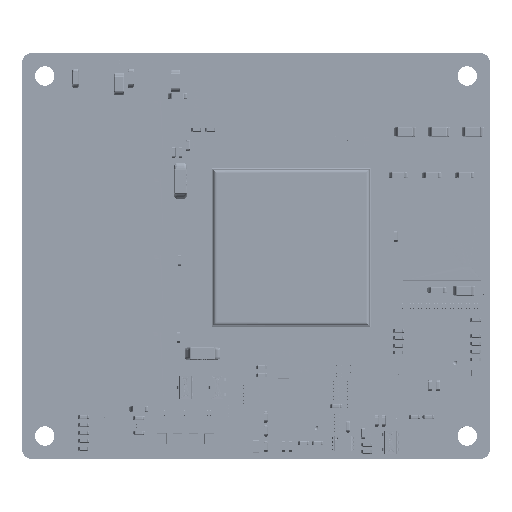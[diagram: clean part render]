
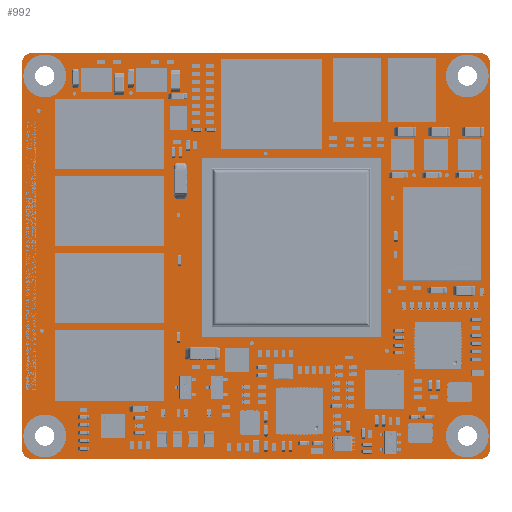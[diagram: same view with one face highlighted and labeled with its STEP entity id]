
A CAD part, top view. The second image highlights one B-rep face of the part: STEP entity #992.
In plain terms, the highlighted planar face has unit normal (0, 0, 1).
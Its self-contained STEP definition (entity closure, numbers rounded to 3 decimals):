
#89=CARTESIAN_POINT('',(58.8,50.8,0.));
#90=DIRECTION('',(0.,0.,-1.));
#91=DIRECTION('',(0.,1.,0.));
#92=AXIS2_PLACEMENT_3D('',#89,#90,#91);
#97=CARTESIAN_POINT('',(58.8,1.2,0.));
#98=DIRECTION('',(0.,0.,-1.));
#99=DIRECTION('',(1.,0.,0.));
#100=AXIS2_PLACEMENT_3D('',#97,#98,#99);
#105=CARTESIAN_POINT('',(1.2,1.2,0.));
#106=DIRECTION('',(0.,0.,-1.));
#107=DIRECTION('',(0.,-1.,0.));
#108=AXIS2_PLACEMENT_3D('',#105,#106,#107);
#113=CARTESIAN_POINT('',(1.2,50.8,0.));
#114=DIRECTION('',(0.,0.,-1.));
#115=DIRECTION('',(-1.,0.,0.));
#116=AXIS2_PLACEMENT_3D('',#113,#114,#115);
#121=CARTESIAN_POINT('',(2.921,49.079,0.));
#122=DIRECTION('',(0.,0.,1.));
#123=DIRECTION('',(1.,0.,0.));
#124=AXIS2_PLACEMENT_3D('',#121,#122,#123);
#129=CARTESIAN_POINT('',(2.921,49.079,0.));
#130=DIRECTION('',(0.,0.,1.));
#131=DIRECTION('',(-1.,0.,0.));
#132=AXIS2_PLACEMENT_3D('',#129,#130,#131);
#137=CARTESIAN_POINT('',(57.079,49.079,0.));
#138=DIRECTION('',(0.,0.,1.));
#139=DIRECTION('',(1.,0.,0.));
#140=AXIS2_PLACEMENT_3D('',#137,#138,#139);
#145=CARTESIAN_POINT('',(57.079,49.079,0.));
#146=DIRECTION('',(0.,0.,1.));
#147=DIRECTION('',(-1.,0.,0.));
#148=AXIS2_PLACEMENT_3D('',#145,#146,#147);
#153=CARTESIAN_POINT('',(2.921,2.921,0.));
#154=DIRECTION('',(0.,0.,1.));
#155=DIRECTION('',(1.,0.,0.));
#156=AXIS2_PLACEMENT_3D('',#153,#154,#155);
#161=CARTESIAN_POINT('',(2.921,2.921,0.));
#162=DIRECTION('',(0.,0.,1.));
#163=DIRECTION('',(-1.,0.,0.));
#164=AXIS2_PLACEMENT_3D('',#161,#162,#163);
#169=CARTESIAN_POINT('',(57.079,2.921,0.));
#170=DIRECTION('',(0.,0.,1.));
#171=DIRECTION('',(1.,0.,0.));
#172=AXIS2_PLACEMENT_3D('',#169,#170,#171);
#177=CARTESIAN_POINT('',(57.079,2.921,0.));
#178=DIRECTION('',(0.,0.,1.));
#179=DIRECTION('',(-1.,0.,0.));
#180=AXIS2_PLACEMENT_3D('',#177,#178,#179);
#185=DIRECTION('',(1.,0.,0.));
#186=VECTOR('',#185,57.6);
#187=CARTESIAN_POINT('',(1.2,52.,0.));
#188=LINE('',#187,#186);
#213=DIRECTION('',(0.,1.,0.));
#214=VECTOR('',#213,49.6);
#215=CARTESIAN_POINT('',(0.,1.2,0.));
#216=LINE('',#215,#214);
#241=DIRECTION('',(-1.,0.,0.));
#242=VECTOR('',#241,57.6);
#243=CARTESIAN_POINT('',(58.8,0.,0.));
#244=LINE('',#243,#242);
#269=DIRECTION('',(0.,-1.,0.));
#270=VECTOR('',#269,49.6);
#271=CARTESIAN_POINT('',(60.,50.8,0.));
#272=LINE('',#271,#270);
#817=CARTESIAN_POINT('',(1.2,52.,0.));
#818=CARTESIAN_POINT('',(58.8,52.,0.));
#819=VERTEX_POINT('',#817);
#820=VERTEX_POINT('',#818);
#821=CARTESIAN_POINT('',(60.,50.8,0.));
#822=VERTEX_POINT('',#821);
#823=CARTESIAN_POINT('',(60.,1.2,0.));
#824=VERTEX_POINT('',#823);
#825=CARTESIAN_POINT('',(58.8,0.,0.));
#826=VERTEX_POINT('',#825);
#827=CARTESIAN_POINT('',(1.2,0.,0.));
#828=VERTEX_POINT('',#827);
#829=CARTESIAN_POINT('',(0.,1.2,0.));
#830=VERTEX_POINT('',#829);
#831=CARTESIAN_POINT('',(0.,50.8,0.));
#832=VERTEX_POINT('',#831);
#865=CARTESIAN_POINT('',(5.671,49.079,0.));
#866=CARTESIAN_POINT('',(0.171,49.079,0.));
#867=VERTEX_POINT('',#865);
#868=VERTEX_POINT('',#866);
#869=CARTESIAN_POINT('',(59.829,49.079,0.));
#870=CARTESIAN_POINT('',(54.329,49.079,0.));
#871=VERTEX_POINT('',#869);
#872=VERTEX_POINT('',#870);
#873=CARTESIAN_POINT('',(5.671,2.921,0.));
#874=CARTESIAN_POINT('',(0.171,2.921,0.));
#875=VERTEX_POINT('',#873);
#876=VERTEX_POINT('',#874);
#877=CARTESIAN_POINT('',(59.829,2.921,0.));
#878=CARTESIAN_POINT('',(54.329,2.921,0.));
#879=VERTEX_POINT('',#877);
#880=VERTEX_POINT('',#878);
#945=CARTESIAN_POINT('',(128.999,160.007,0.));
#946=DIRECTION('',(0.,0.,1.));
#947=DIRECTION('',(1.,0.,0.));
#948=AXIS2_PLACEMENT_3D('',#945,#946,#947);
#949=PLANE('',#948);
#951=ORIENTED_EDGE('',*,*,#950,.T.);
#953=ORIENTED_EDGE('',*,*,#952,.T.);
#955=ORIENTED_EDGE('',*,*,#954,.T.);
#957=ORIENTED_EDGE('',*,*,#956,.T.);
#959=ORIENTED_EDGE('',*,*,#958,.T.);
#961=ORIENTED_EDGE('',*,*,#960,.T.);
#963=ORIENTED_EDGE('',*,*,#962,.T.);
#965=ORIENTED_EDGE('',*,*,#964,.T.);
#966=EDGE_LOOP('',(#951,#953,#955,#957,#959,#961,#963,#965));
#967=FACE_OUTER_BOUND('',#966,.F.);
#969=ORIENTED_EDGE('',*,*,#968,.T.);
#971=ORIENTED_EDGE('',*,*,#970,.T.);
#972=EDGE_LOOP('',(#969,#971));
#973=FACE_BOUND('',#972,.F.);
#975=ORIENTED_EDGE('',*,*,#974,.T.);
#977=ORIENTED_EDGE('',*,*,#976,.T.);
#978=EDGE_LOOP('',(#975,#977));
#979=FACE_BOUND('',#978,.F.);
#981=ORIENTED_EDGE('',*,*,#980,.T.);
#983=ORIENTED_EDGE('',*,*,#982,.T.);
#984=EDGE_LOOP('',(#981,#983));
#985=FACE_BOUND('',#984,.F.);
#987=ORIENTED_EDGE('',*,*,#986,.T.);
#989=ORIENTED_EDGE('',*,*,#988,.T.);
#990=EDGE_LOOP('',(#987,#989));
#991=FACE_BOUND('',#990,.F.);
#93=CIRCLE('',#92,1.2);
#101=CIRCLE('',#100,1.2);
#109=CIRCLE('',#108,1.2);
#117=CIRCLE('',#116,1.2);
#125=CIRCLE('',#124,2.75);
#133=CIRCLE('',#132,2.75);
#141=CIRCLE('',#140,2.75);
#149=CIRCLE('',#148,2.75);
#157=CIRCLE('',#156,2.75);
#165=CIRCLE('',#164,2.75);
#173=CIRCLE('',#172,2.75);
#181=CIRCLE('',#180,2.75);
#950=EDGE_CURVE('',#819,#820,#188,.T.);
#952=EDGE_CURVE('',#820,#822,#93,.T.);
#954=EDGE_CURVE('',#822,#824,#272,.T.);
#956=EDGE_CURVE('',#824,#826,#101,.T.);
#958=EDGE_CURVE('',#826,#828,#244,.T.);
#960=EDGE_CURVE('',#828,#830,#109,.T.);
#962=EDGE_CURVE('',#830,#832,#216,.T.);
#964=EDGE_CURVE('',#832,#819,#117,.T.);
#968=EDGE_CURVE('',#867,#868,#125,.T.);
#970=EDGE_CURVE('',#868,#867,#133,.T.);
#974=EDGE_CURVE('',#871,#872,#141,.T.);
#976=EDGE_CURVE('',#872,#871,#149,.T.);
#980=EDGE_CURVE('',#875,#876,#157,.T.);
#982=EDGE_CURVE('',#876,#875,#165,.T.);
#986=EDGE_CURVE('',#879,#880,#173,.T.);
#988=EDGE_CURVE('',#880,#879,#181,.T.);
#992=ADVANCED_FACE('',(#967,#973,#979,#985,#991),#949,.T.);
